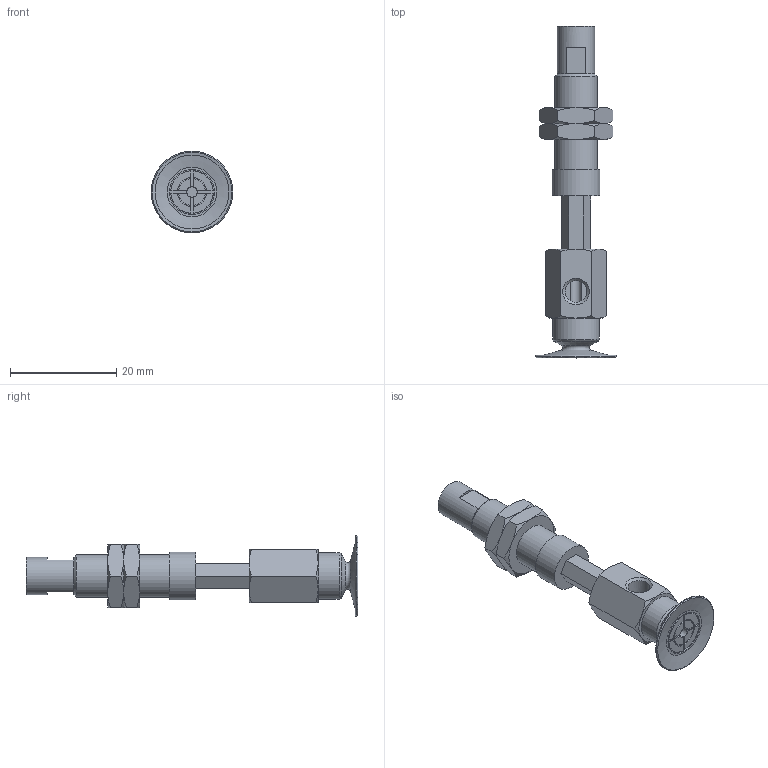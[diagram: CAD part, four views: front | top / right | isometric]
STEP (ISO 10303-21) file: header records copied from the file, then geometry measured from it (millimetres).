
FILE_DESCRIPTION(('STEP AP203'),'1');
FILE_NAME('.stp','2025-03-13T03:10:41',(' '),(' '),'Spatial InterOp 3D',' ',' ');
FILE_SCHEMA(('CONFIG_CONTROL_DESIGN'));
Length unit declared in the file: millimetre
Products named in the file (6): BNABPAYH-15B-10-※; NAPATH-10A-10--M; NAPATH-10A-10--F; Nut-10A-S; CONNECTOR-10A-10-PA; BPAG-15B-※
Assembly tree (6 placements, depth 2):
  BNABPAYH-15B-10-※
    NAPATH-10A-10--M
    NAPATH-10A-10--F
    Nut-10A-S  x2
    CONNECTOR-10A-10-PA
    BPAG-15B-※
Bounding box: 15.4 x 62.5 x 15.4 mm (x, y, z)
Volume: 3521.8 mm3; surface area: 4475.1 mm2
Topology: 6 solids, 6 shells, 181 faces, 411 edges, 251 vertices
Faces by surface type: plane 83, cone 60, cylinder 28, torus 10
Full cylindrical faces by diameter (mm): 2 x2, 4 x2, 4.134 x2, 5 x1, 6 x2, 7 x1, 7.188 x2, 8 x1, 8.5 x1, 8.7 x1, 9 x1
Entity records: 4728 total; most frequent: CARTESIAN_POINT 1118, DIRECTION 684, ORIENTED_EDGE 628, EDGE_CURVE 314, AXIS2_PLACEMENT_3D 274, EDGE_LOOP 214, VERTEX_POINT 212, FACE_OUTER_BOUND 183
